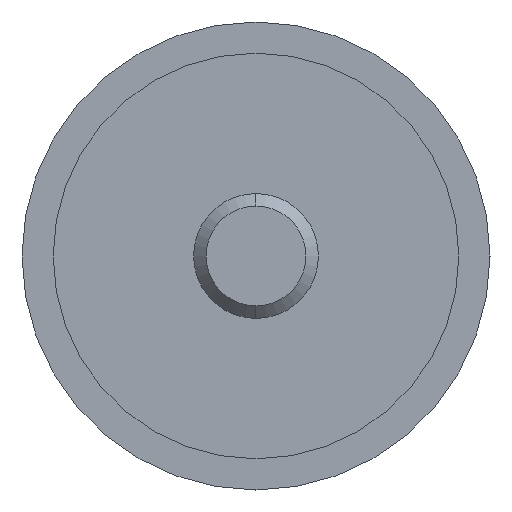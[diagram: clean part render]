
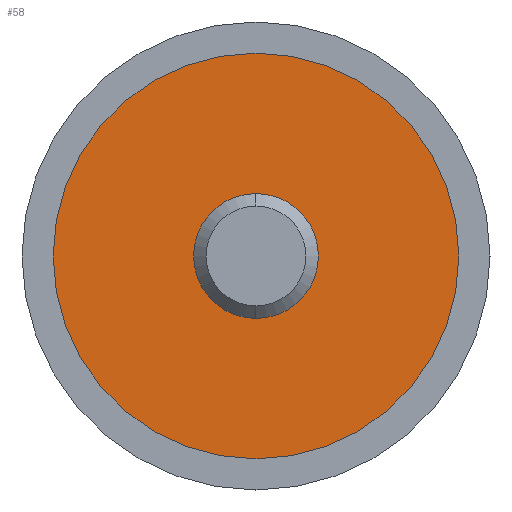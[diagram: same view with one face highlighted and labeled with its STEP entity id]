
A CAD part, left-side view. The second image highlights one B-rep face of the part: STEP entity #58.
In plain terms, the highlighted planar face has unit normal (-1, 0, 0).
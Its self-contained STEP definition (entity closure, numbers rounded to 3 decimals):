
#6 = DIRECTION ( 'NONE',  ( -1., 0., 0. ) ) ;
#24 = DIRECTION ( 'NONE',  ( -1., 0., 0. ) ) ;
#58 = ADVANCED_FACE ( 'NONE', ( #379, #319 ), #313, .F. ) ;
#88 = EDGE_CURVE ( 'NONE', #97, #618, #468, .T. ) ;
#97 = VERTEX_POINT ( 'NONE', #261 ) ;
#112 = CARTESIAN_POINT ( 'NONE',  ( -12.49, 0., 0. ) ) ;
#149 = EDGE_LOOP ( 'NONE', ( #192, #370 ) ) ;
#182 = ORIENTED_EDGE ( 'NONE', *, *, #501, .T. ) ;
#192 = ORIENTED_EDGE ( 'NONE', *, *, #233, .F. ) ;
#201 = CIRCLE ( 'NONE', #475, 4. ) ;
#233 = EDGE_CURVE ( 'NONE', #665, #412, #538, .T. ) ;
#261 = CARTESIAN_POINT ( 'NONE',  ( -12.49, 0., -13. ) ) ;
#266 = CARTESIAN_POINT ( 'NONE',  ( -12.49, 13., 0. ) ) ;
#293 = EDGE_LOOP ( 'NONE', ( #182, #562 ) ) ;
#312 = CARTESIAN_POINT ( 'NONE',  ( -12.49, 0., 0. ) ) ;
#313 = PLANE ( 'NONE',  #506 ) ;
#319 = FACE_BOUND ( 'NONE', #149, .T. ) ;
#320 = DIRECTION ( 'NONE',  ( 0., 0., -1. ) ) ;
#333 = CARTESIAN_POINT ( 'NONE',  ( -12.49, 0., 13. ) ) ;
#354 = CARTESIAN_POINT ( 'NONE',  ( -12.49, 0., -4. ) ) ;
#370 = ORIENTED_EDGE ( 'NONE', *, *, #485, .F. ) ;
#372 = DIRECTION ( 'NONE',  ( -1., 0., 0. ) ) ;
#379 = FACE_OUTER_BOUND ( 'NONE', #293, .T. ) ;
#385 = CIRCLE ( 'NONE', #595, 13. ) ;
#398 = AXIS2_PLACEMENT_3D ( 'NONE', #112, #6, #483 ) ;
#412 = VERTEX_POINT ( 'NONE', #354 ) ;
#468 = CIRCLE ( 'NONE', #398, 13. ) ;
#474 = DIRECTION ( 'NONE',  ( 0., 0., -1. ) ) ;
#475 = AXIS2_PLACEMENT_3D ( 'NONE', #312, #372, #320 ) ;
#480 = DIRECTION ( 'NONE',  ( 0., 0., 1. ) ) ;
#483 = DIRECTION ( 'NONE',  ( 0., 0., 1. ) ) ;
#485 = EDGE_CURVE ( 'NONE', #412, #665, #201, .T. ) ;
#497 = AXIS2_PLACEMENT_3D ( 'NONE', #651, #24, #504 ) ;
#501 = EDGE_CURVE ( 'NONE', #618, #97, #385, .T. ) ;
#504 = DIRECTION ( 'NONE',  ( 0., 0., -1. ) ) ;
#506 = AXIS2_PLACEMENT_3D ( 'NONE', #266, #593, #474 ) ;
#527 = DIRECTION ( 'NONE',  ( -1., 0., 0. ) ) ;
#538 = CIRCLE ( 'NONE', #497, 4. ) ;
#562 = ORIENTED_EDGE ( 'NONE', *, *, #88, .T. ) ;
#593 = DIRECTION ( 'NONE',  ( 1., 0., 0. ) ) ;
#595 = AXIS2_PLACEMENT_3D ( 'NONE', #624, #527, #480 ) ;
#618 = VERTEX_POINT ( 'NONE', #333 ) ;
#624 = CARTESIAN_POINT ( 'NONE',  ( -12.49, 0., 0. ) ) ;
#651 = CARTESIAN_POINT ( 'NONE',  ( -12.49, 0., 0. ) ) ;
#652 = CARTESIAN_POINT ( 'NONE',  ( -12.49, 0., 4. ) ) ;
#665 = VERTEX_POINT ( 'NONE', #652 ) ;
